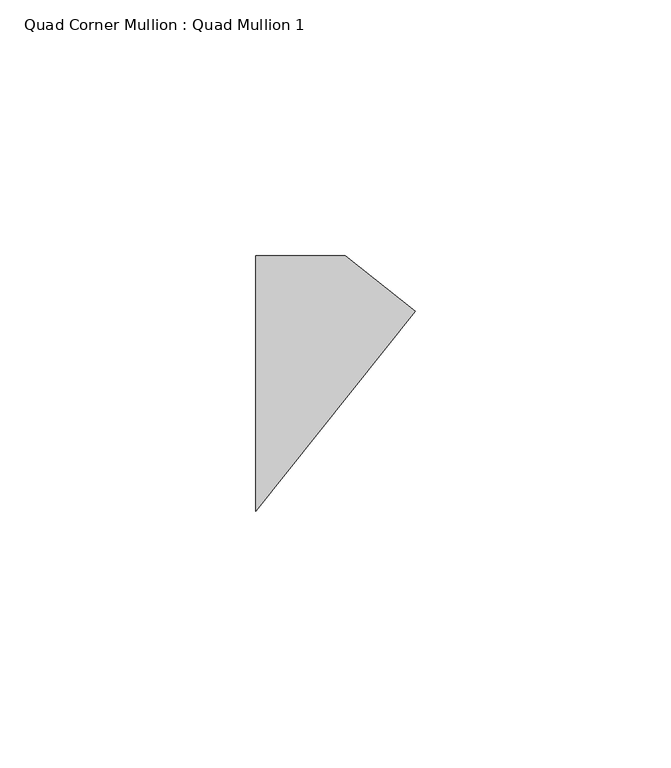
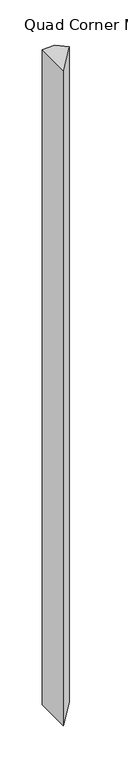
"""IFC4 building model written with IfcOpenShell, lengths in millimetres: member geometry, Quad Corner Mullion : Quad Mullion 1."""

from ifc_helpers import new_model, si_unit, frame, origin, place, context, project, spatial, polyline, outline, extrude, source, transform, mapped, element, save


def quad_corner_mullion_quad_mullion_1_11d522c4(model_context):
    return source(origin(), model_context, "Body", "SweptSolid", [
        extrude(outline(polyline([(22.4169637, 14.1035695), (-8.7424787, -25.0), (-8.7424787, 25.0), (8.7424787, 25.0), (22.4169637, 14.1035695)])), frame((0.0, 0.0, -950.0), z_axis=(0.0, 0.0, 1.0), x_axis=(1.0, 0.0, 0.0)), (0.0, 0.0, 1.0), 950.0),
    ])


if __name__ == "__main__":
    model = new_model("IFC4")
    model_context = context("Model", 3, world=origin())
    ifc_project = project(units=[si_unit("LENGTHUNIT", "METRE", prefix="MILLI")], contexts=[model_context])
    site = spatial("IfcSite", under=ifc_project)
    building = spatial("IfcBuilding", under=site)
    placement = place(None, origin())
    quad_corner_mullion_quad_mullion_1_shape = quad_corner_mullion_quad_mullion_1_11d522c4(model_context)
    element("IfcMember", 1, ObjectType="Quad Corner Mullion : Quad Mullion 1", at=placement, inside=building, context=model_context, shape_type="MappedRepresentation", body=[
        mapped(quad_corner_mullion_quad_mullion_1_shape, transform((0.0, 0.0, 0.0), x_axis=(1.0, 0.0, 0.0), y_axis=(0.0, 1.0, 0.0), z_axis=(0.0, 0.0, 1.0))),
    ])
    save(model, "model.ifc")
